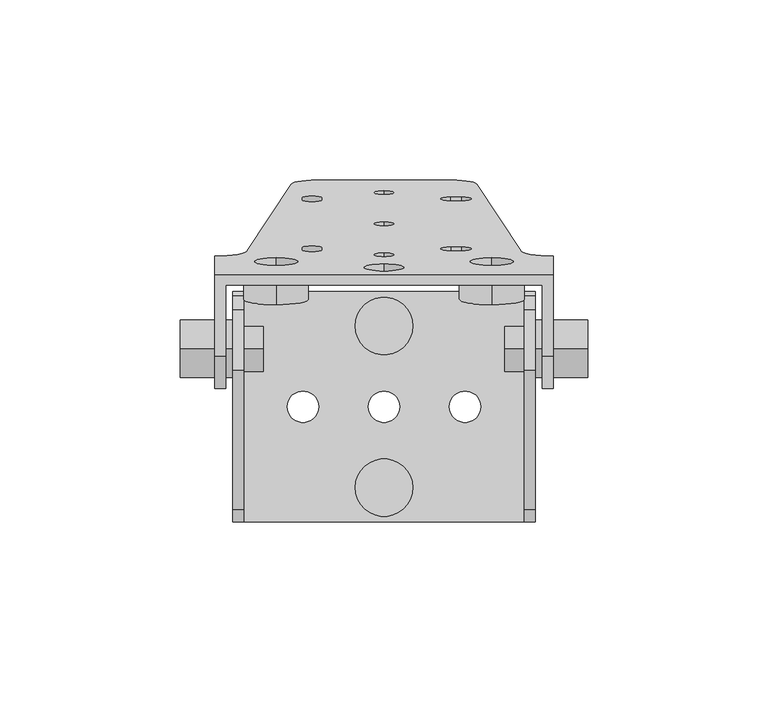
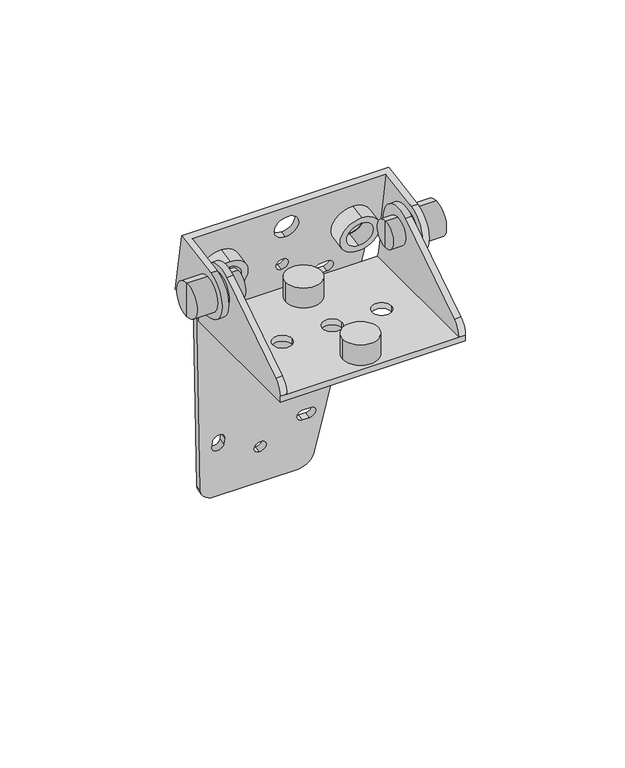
"""IFC4 building model written with IfcOpenShell, lengths in millimetres: proxy geometry, d&b xS-Series 42S l 44S Mounting Bracket : 42S l 44S Mounting Bracket."""

from ifc_helpers import new_model, si_unit, point, frame, frame_2d, origin, origin_with_axes, place, context, project, spatial, polyline, circle_curve, trimmed, segment, composite_curve, outline, extrude, source, transform, mapped, element, save
from ifc_brep_helpers import plane_surface, cylinder_surface, revolved_surface, advanced_brep


def communication_devices_fe93b70c(model_context):
    return source(origin(), model_context, "Body", "SolidModel", [
        advanced_brep(
        [(-25.7132706, 58.9735909, -103.2943461), (-18.7591389, 60.0502039, -109.4001219), (18.7591389, 60.0502039, -109.4001219), (25.7132706, 58.9735909, -103.2943461), (37.9541317, 40.4971936, 1.4905099), (47.0, 38.9263951, 10.3989511), (47.0, 38.871905, 10.7079795), (44.0, 38.871905, 10.7079795), (44.0, 33.8293291, 39.3058488), (-44.0, 33.8293291, 39.3058488), (-44.0, 38.871905, 10.7079795), (-47.0, 38.871905, 10.7079795), (-37.9949251, 40.4356199, 1.8397119), (-29.9380242, 38.4341216, 13.1907728), (-29.9380242, 36.3503434, 25.0084658), (29.9380242, 38.4341216, 13.1907728), (29.9380242, 36.3503434, 25.0084658), (0.0, 57.0547728, -92.4121881), (0.0, 56.0997078, -86.9957455), (0.0, 39.7767791, 5.5761833), (0.0, 38.8217142, 10.9926259), (0.0, 36.694524, 23.0565209), (0.0, 34.784394, 33.8894062), (-22.75, 40.6884321, 0.4059426), (-17.25, 40.6884321, 0.4059426), (-17.25, 41.2093766, -2.5484807), (-22.75, 41.2093766, -2.5484807), (21.5, 40.4713719, 1.6369523), (21.5, 41.4264368, -3.7794904), (18.5, 41.4264368, -3.7794904), (18.5, 40.4713719, 1.6369523), (-17.25, 55.1012308, -81.3331009), (-22.75, 55.1012308, -81.3331009), (-22.75, 54.5802863, -78.3786776), (-17.25, 54.5802863, -78.3786776), (18.5, 55.318291, -82.5641106), (18.5, 54.3632261, -77.147668), (21.5, 54.3632261, -77.147668), (21.5, 55.318291, -82.5641106), (0.0, 48.3723639, -43.1718005), (0.0, 47.417299, -37.7553578), (-25.7132706, 61.9280142, -102.7734016), (-37.9949251, 43.3900431, 2.3606565), (-47.0, 41.8263283, 11.228924), (-47.0, 36.7837523, 39.8267934), (47.0, 36.7837523, 39.8267934), (47.0, 41.8808183, 10.9198956), (37.9541317, 43.4516169, 2.0114544), (25.7132706, 61.9280142, -102.7734016), (18.7591389, 63.0046271, -108.8791773), (-18.7591389, 63.0046271, -108.8791773), (-29.9380242, 41.3885448, 13.7117173), (-29.9380242, 39.3047667, 25.5294104), (29.9380242, 41.3885448, 13.7117173), (29.9380242, 39.3047667, 25.5294104), (0.0, 60.0091961, -91.8912436), (0.0, 59.0541311, -86.474801), (0.0, 42.7312024, 6.0971278), (0.0, 41.7761374, 11.5135705), (0.0, 39.6489473, 23.5774654), (0.0, 37.7388173, 34.4103507), (-22.75, 43.6428553, 0.9268871), (-22.75, 44.1637999, -2.0275361), (-17.25, 44.1637999, -2.0275361), (-17.25, 43.6428553, 0.9268871), (21.5, 43.4257951, 2.1578968), (18.5, 43.4257951, 2.1578968), (18.5, 44.3808601, -3.2585458), (21.5, 44.3808601, -3.2585458), (-17.25, 58.0556541, -80.8121564), (-17.25, 57.5347096, -77.8577331), (-22.75, 57.5347096, -77.8577331), (-22.75, 58.0556541, -80.8121564), (18.5, 58.2727143, -82.0431661), (21.5, 58.2727143, -82.0431661), (21.5, 57.3176493, -76.6267234), (18.5, 57.3176493, -76.6267234), (0.0, 51.3267872, -42.6508559), (0.0, 50.3717222, -37.2344133), (-47.0, 36.3114049, 10.2564942), (-47.0, 14.133174, 14.1671147), (-47.0, 14.133174, 35.8328853), (-44.0, 14.133174, 35.8328853), (44.0, 14.133174, 35.8328853), (47.0, 14.133174, 35.8328853), (47.0, 14.133174, 14.1671147), (47.0, 36.3114049, 10.2564942), (44.0, 36.3114049, 10.2564942), (44.0, 14.133174, 14.1671147), (-44.0, 14.133174, 14.1671147), (-44.0, 36.3114049, 10.2564942)],
        [
            (0, 1, circle_curve(frame((-18.7591389, 58.8346666, -102.5064676), z_axis=(0.0, -0.984807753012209, -0.1736481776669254), x_axis=(0.0, -0.1736481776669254, 0.984807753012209)), 7.0)),
            (1, 2),
            (2, 3, circle_curve(frame((18.7591389, 58.8346666, -102.5064676), z_axis=(0.0, -0.984807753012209, -0.1736481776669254), x_axis=(0.0, -0.1736481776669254, 0.984807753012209)), 7.0)),
            (3, 4),
            (4, 5, circle_curve(frame((47.0, 40.4971936, 1.4905099), z_axis=(0.0, 0.984807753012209, 0.1736481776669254), x_axis=(0.0, -0.1736481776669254, 0.984807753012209)), 9.0458683)),
            (5, 6),
            (6, 7),
            (7, 8),
            (8, 9),
            (9, 10),
            (10, 11),
            (11, 12, circle_curve(frame((-47.0, 40.4356199, 1.8397119), z_axis=(0.0, 0.984807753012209, 0.1736481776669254), x_axis=(0.0, -0.1736481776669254, 0.984807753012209)), 9.0050749)),
            (12, 0),
            (13, 14, circle_curve(frame((-29.9380242, 37.3922325, 19.0996193), z_axis=(0.0, 0.984807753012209, 0.17364817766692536), x_axis=(0.0, -0.17364817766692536, 0.984807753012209)), 6.0)),
            (14, 13, circle_curve(frame((-29.9380242, 37.3922325, 19.0996193), z_axis=(0.0, 0.984807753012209, 0.17364817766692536), x_axis=(0.0, -0.17364817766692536, 0.984807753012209)), 6.0)),
            (15, 16, circle_curve(frame((29.9380242, 37.3922325, 19.0996193), z_axis=(0.0, 0.984807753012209, 0.17364817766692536), x_axis=(0.0, -0.17364817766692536, 0.984807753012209)), 6.0)),
            (16, 15, circle_curve(frame((29.9380242, 37.3922325, 19.0996193), z_axis=(0.0, 0.984807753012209, 0.17364817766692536), x_axis=(0.0, -0.17364817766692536, 0.984807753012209)), 6.0)),
            (17, 18, circle_curve(frame((0.0, 56.5772403, -89.7039668), z_axis=(0.0, 0.984807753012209, 0.17364817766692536), x_axis=(0.0, -0.17364817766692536, 0.984807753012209)), 2.75)),
            (18, 17, circle_curve(frame((0.0, 56.5772403, -89.7039668), z_axis=(0.0, 0.984807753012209, 0.17364817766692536), x_axis=(0.0, -0.17364817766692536, 0.984807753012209)), 2.75)),
            (19, 20, circle_curve(frame((0.0, 39.2992467, 8.2844046), z_axis=(0.0, 0.984807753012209, 0.17364817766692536), x_axis=(0.0, -0.17364817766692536, 0.984807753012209)), 2.75)),
            (20, 19, circle_curve(frame((0.0, 39.2992467, 8.2844046), z_axis=(0.0, 0.984807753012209, 0.17364817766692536), x_axis=(0.0, -0.17364817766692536, 0.984807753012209)), 2.75)),
            (21, 22, circle_curve(frame((0.0, 35.739459, 28.4729636), z_axis=(0.0, 0.984807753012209, 0.17364817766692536), x_axis=(0.0, -0.17364817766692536, 0.984807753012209)), 5.5)),
            (22, 21, circle_curve(frame((0.0, 35.739459, 28.4729636), z_axis=(0.0, 0.984807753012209, 0.17364817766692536), x_axis=(0.0, -0.17364817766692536, 0.984807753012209)), 5.5)),
            (23, 24, circle_curve(frame((-20.0, 40.6884321, 0.4059426), z_axis=(0.0, 0.984807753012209, 0.17364817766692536), x_axis=(0.0, -0.17364817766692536, 0.984807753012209)), 2.75)),
            (24, 25),
            (25, 26, circle_curve(frame((-20.0, 41.2093766, -2.5484807), z_axis=(0.0, 0.984807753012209, 0.17364817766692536), x_axis=(0.0, -0.17364817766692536, 0.984807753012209)), 2.75)),
            (26, 23),
            (27, 28, circle_curve(frame((21.5, 40.9489043, -1.071269), z_axis=(0.0, 0.984807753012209, 0.17364817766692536), x_axis=(0.0, -0.17364817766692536, 0.984807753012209)), 2.75)),
            (28, 29),
            (29, 30, circle_curve(frame((18.5, 40.9489043, -1.071269), z_axis=(0.0, 0.984807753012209, 0.17364817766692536), x_axis=(0.0, -0.17364817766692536, 0.984807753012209)), 2.75)),
            (30, 27),
            (31, 32, circle_curve(frame((-20.0, 55.1012308, -81.3331009), z_axis=(0.0, 0.984807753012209, 0.17364817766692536), x_axis=(0.0, -0.17364817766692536, 0.984807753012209)), 2.75)),
            (32, 33),
            (33, 34, circle_curve(frame((-20.0, 54.5802863, -78.3786776), z_axis=(0.0, 0.984807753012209, 0.17364817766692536), x_axis=(0.0, -0.17364817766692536, 0.984807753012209)), 2.75)),
            (34, 31),
            (35, 36, circle_curve(frame((18.5, 54.8407586, -79.8558893), z_axis=(0.0, 0.984807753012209, 0.17364817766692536), x_axis=(0.0, -0.17364817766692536, 0.984807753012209)), 2.75)),
            (36, 37),
            (37, 38, circle_curve(frame((21.5, 54.8407586, -79.8558893), z_axis=(0.0, 0.984807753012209, 0.17364817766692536), x_axis=(0.0, -0.17364817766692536, 0.984807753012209)), 2.75)),
            (38, 35),
            (39, 40, circle_curve(frame((0.0, 47.8948315, -40.4635792), z_axis=(0.0, 0.984807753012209, 0.17364817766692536), x_axis=(0.0, -0.17364817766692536, 0.984807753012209)), 2.75)),
            (40, 39, circle_curve(frame((0.0, 47.8948315, -40.4635792), z_axis=(0.0, 0.984807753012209, 0.17364817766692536), x_axis=(0.0, -0.17364817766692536, 0.984807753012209)), 2.75)),
            (41, 42),
            (42, 43, circle_curve(frame((-47.0, 43.3900431, 2.3606565), z_axis=(0.0, -0.984807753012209, -0.1736481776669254), x_axis=(0.0, -0.1736481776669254, 0.984807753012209)), 9.0050749)),
            (43, 44),
            (44, 45),
            (45, 46),
            (46, 47, circle_curve(frame((47.0, 43.4516169, 2.0114544), z_axis=(0.0, -0.984807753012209, -0.1736481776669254), x_axis=(0.0, -0.1736481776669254, 0.984807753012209)), 9.0458683)),
            (47, 48),
            (48, 49, circle_curve(frame((18.7591389, 61.7890899, -101.9855231), z_axis=(0.0, 0.984807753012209, 0.1736481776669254), x_axis=(0.0, -0.1736481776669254, 0.984807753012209)), 7.0)),
            (49, 50),
            (50, 41, circle_curve(frame((-18.7591389, 61.7890899, -101.9855231), z_axis=(0.0, 0.984807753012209, 0.1736481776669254), x_axis=(0.0, -0.1736481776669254, 0.984807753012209)), 7.0)),
            (51, 52, circle_curve(frame((-29.9380242, 40.3466558, 19.6205639), z_axis=(0.0, -0.984807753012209, -0.17364817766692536), x_axis=(0.0, -0.17364817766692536, 0.984807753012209)), 6.0)),
            (52, 51, circle_curve(frame((-29.9380242, 40.3466558, 19.6205639), z_axis=(0.0, -0.984807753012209, -0.17364817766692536), x_axis=(0.0, -0.17364817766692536, 0.984807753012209)), 6.0)),
            (53, 54, circle_curve(frame((29.9380242, 40.3466558, 19.6205639), z_axis=(0.0, -0.984807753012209, -0.17364817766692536), x_axis=(0.0, -0.17364817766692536, 0.984807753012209)), 6.0)),
            (54, 53, circle_curve(frame((29.9380242, 40.3466558, 19.6205639), z_axis=(0.0, -0.984807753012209, -0.17364817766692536), x_axis=(0.0, -0.17364817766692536, 0.984807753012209)), 6.0)),
            (55, 56, circle_curve(frame((0.0, 59.5316636, -89.1830223), z_axis=(0.0, -0.984807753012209, -0.17364817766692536), x_axis=(0.0, -0.17364817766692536, 0.984807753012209)), 2.75)),
            (56, 55, circle_curve(frame((0.0, 59.5316636, -89.1830223), z_axis=(0.0, -0.984807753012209, -0.17364817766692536), x_axis=(0.0, -0.17364817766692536, 0.984807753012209)), 2.75)),
            (57, 58, circle_curve(frame((0.0, 42.2536699, 8.8053491), z_axis=(0.0, -0.984807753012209, -0.17364817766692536), x_axis=(0.0, -0.17364817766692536, 0.984807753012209)), 2.75)),
            (58, 57, circle_curve(frame((0.0, 42.2536699, 8.8053491), z_axis=(0.0, -0.984807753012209, -0.17364817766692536), x_axis=(0.0, -0.17364817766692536, 0.984807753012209)), 2.75)),
            (59, 60, circle_curve(frame((0.0, 38.6938823, 28.9939081), z_axis=(0.0, -0.984807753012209, -0.17364817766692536), x_axis=(0.0, -0.17364817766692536, 0.984807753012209)), 5.5)),
            (60, 59, circle_curve(frame((0.0, 38.6938823, 28.9939081), z_axis=(0.0, -0.984807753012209, -0.17364817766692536), x_axis=(0.0, -0.17364817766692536, 0.984807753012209)), 5.5)),
            (61, 62),
            (62, 63, circle_curve(frame((-20.0, 44.1637999, -2.0275361), z_axis=(0.0, -0.984807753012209, -0.17364817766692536), x_axis=(0.0, -0.17364817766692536, 0.984807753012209)), 2.75)),
            (63, 64),
            (64, 61, circle_curve(frame((-20.0, 43.6428553, 0.9268871), z_axis=(0.0, -0.984807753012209, -0.17364817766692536), x_axis=(0.0, -0.17364817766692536, 0.984807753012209)), 2.75)),
            (65, 66),
            (66, 67, circle_curve(frame((18.5, 43.9033276, -0.5503245), z_axis=(0.0, -0.984807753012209, -0.17364817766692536), x_axis=(0.0, -0.17364817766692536, 0.984807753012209)), 2.75)),
            (67, 68),
            (68, 65, circle_curve(frame((21.5, 43.9033276, -0.5503245), z_axis=(0.0, -0.984807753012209, -0.17364817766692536), x_axis=(0.0, -0.17364817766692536, 0.984807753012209)), 2.75)),
            (69, 70),
            (70, 71, circle_curve(frame((-20.0, 57.5347096, -77.8577331), z_axis=(0.0, -0.984807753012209, -0.17364817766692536), x_axis=(0.0, -0.17364817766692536, 0.984807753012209)), 2.75)),
            (71, 72),
            (72, 69, circle_curve(frame((-20.0, 58.0556541, -80.8121564), z_axis=(0.0, -0.984807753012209, -0.17364817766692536), x_axis=(0.0, -0.17364817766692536, 0.984807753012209)), 2.75)),
            (73, 74),
            (74, 75, circle_curve(frame((21.5, 57.7951818, -79.3349447), z_axis=(0.0, -0.984807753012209, -0.17364817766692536), x_axis=(0.0, -0.17364817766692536, 0.984807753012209)), 2.75)),
            (75, 76),
            (76, 73, circle_curve(frame((18.5, 57.7951818, -79.3349447), z_axis=(0.0, -0.984807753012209, -0.17364817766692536), x_axis=(0.0, -0.17364817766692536, 0.984807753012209)), 2.75)),
            (77, 78, circle_curve(frame((0.0, 50.8492547, -39.9426346), z_axis=(0.0, -0.984807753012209, -0.17364817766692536), x_axis=(0.0, -0.17364817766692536, 0.984807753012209)), 2.75)),
            (78, 77, circle_curve(frame((0.0, 50.8492547, -39.9426346), z_axis=(0.0, -0.984807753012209, -0.17364817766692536), x_axis=(0.0, -0.17364817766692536, 0.984807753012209)), 2.75)),
            (12, 42),
            (41, 0),
            (11, 43),
            (11, 79),
            (79, 80),
            (80, 81, circle_curve(frame((-47.0, 16.043304, 25.0), z_axis=(-1.0, 0.0, 0.0), x_axis=(0.0, -0.17364817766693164, 0.9848077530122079)), 11.0)),
            (81, 44),
            (81, 82),
            (82, 9),
            (8, 83),
            (83, 84),
            (84, 45),
            (84, 85, circle_curve(frame((47.0, 16.043304, 25.0), z_axis=(1.0, 0.0, 0.0), x_axis=(0.0, -0.1736481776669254, 0.984807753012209)), 11.0)),
            (85, 86),
            (86, 6),
            (5, 46),
            (4, 47),
            (3, 48),
            (2, 49),
            (1, 50),
            (14, 52),
            (51, 13),
            (16, 54),
            (53, 15),
            (18, 56),
            (55, 17),
            (20, 58),
            (57, 19),
            (22, 60),
            (59, 21),
            (26, 62),
            (61, 23),
            (25, 63),
            (24, 64),
            (30, 66),
            (65, 27),
            (29, 67),
            (28, 68),
            (34, 70),
            (69, 31),
            (33, 71),
            (32, 72),
            (38, 74),
            (73, 35),
            (37, 75),
            (36, 76),
            (7, 87),
            (87, 88),
            (88, 83, circle_curve(frame((44.0, 16.043304, 25.0), z_axis=(-1.0, 0.0, 0.0), x_axis=(0.0, -0.1736481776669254, 0.984807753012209)), 11.0)),
            (85, 88),
            (87, 86),
            (82, 89, circle_curve(frame((-44.0, 16.043304, 25.0), z_axis=(1.0, 0.0, 0.0), x_axis=(0.0, -0.17364817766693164, 0.9848077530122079)), 11.0)),
            (89, 90),
            (90, 10),
            (79, 90),
            (89, 80),
            (40, 78),
            (77, 39),
        ],
        [
            plane_surface(frame((-37.9541317, 40.4971936, 1.4905099), z_axis=(0.0, -0.9848077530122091, -0.17364817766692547), x_axis=(-0.11429040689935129, -0.17251032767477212, 0.9783546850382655))),
            plane_surface(frame((-37.9541317, 43.4516169, 2.0114544), z_axis=(0.0, 0.9848077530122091, 0.17364817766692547), x_axis=(0.11429040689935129, 0.17251032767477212, -0.9783546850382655))),
            plane_surface(frame((-25.7132706, 58.9735909, -103.2943461), z_axis=(-0.99344738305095, 0.019846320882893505, -0.1125540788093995), x_axis=(0.0, 0.9848077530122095, 0.17364817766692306))),
            revolved_surface(polyline([(-47.0, 41.826328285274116, 11.228924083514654), (-47.0, 38.87190499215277, 10.707979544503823)]), (-47.0, 43.3900431, 2.3606565), (0.0, 0.984807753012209, 0.1736481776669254)),
            plane_surface(frame((-47.0, 38.871905, 10.7079795), z_axis=(-1.0000000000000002, 0.0, 0.0), x_axis=(0.0, 0.9848077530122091, 0.17364817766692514))),
            plane_surface(frame((-47.0, 33.8293291, 39.3058488), z_axis=(0.0, -0.17364817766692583, 0.9848077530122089), x_axis=(0.0, 0.9848077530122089, 0.17364817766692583))),
            plane_surface(frame((47.0, 33.8293291, 39.3058488), z_axis=(1.0000000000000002, 0.0, 0.0), x_axis=(0.0, 0.9848077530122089, 0.17364817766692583))),
            revolved_surface(polyline([(47.0, 41.88081835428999, 10.919895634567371), (47.0, 38.92639506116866, 10.398951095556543)]), (47.0, 43.4516169, 2.0114544), (0.0, 0.984807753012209, 0.1736481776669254)),
            plane_surface(frame((37.9541317, 40.4971936, 1.4905099), z_axis=(0.9934473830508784, 0.019846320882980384, -0.11255407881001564), x_axis=(0.0, 0.9848077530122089, 0.17364817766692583))),
            cylinder_surface(frame((18.7591389, 61.7890899, -101.9855231), z_axis=(0.0, -0.984807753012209, -0.1736481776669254), x_axis=(0.0, -0.1736481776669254, 0.984807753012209)), 7.0),
            plane_surface(frame((18.7591389, 60.0502039, -109.4001219), z_axis=(0.0, 0.17364817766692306, -0.9848077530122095), x_axis=(0.0, 0.9848077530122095, 0.17364817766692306))),
            cylinder_surface(frame((-18.7591389, 61.7890899, -101.9855231), z_axis=(0.0, -0.984807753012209, -0.1736481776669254), x_axis=(0.0, -0.1736481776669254, 0.984807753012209)), 7.0),
            revolved_surface(polyline([(-29.9380242, 39.30476673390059, 25.529410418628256), (-29.9380242, 36.35034338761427, 25.008465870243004)]), (-29.9380242, 17.6960774, 15.6266558), (0.0, 0.984807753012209, 0.17364817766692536)),
            revolved_surface(polyline([(29.9380242, 39.30476673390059, 25.529410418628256), (29.9380242, 36.35034338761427, 25.008465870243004)]), (29.9380242, 17.6960774, 15.6266558), (0.0, 0.984807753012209, 0.17364817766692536)),
            revolved_surface(polyline([(0.0, 59.05413112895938, -86.47480099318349), (0.0, 56.0997078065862, -86.9957455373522)]), (0.0, 36.8810853, -93.1769304), (0.0, 0.984807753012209, 0.17364817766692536)),
            revolved_surface(polyline([(0.0, 41.776137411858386, 11.513570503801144), (0.0, 38.82171411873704, 10.992625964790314)]), (0.0, 19.6030916, 4.8114411), (0.0, 0.984807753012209, 0.17364817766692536)),
            revolved_surface(polyline([(0.0, 37.738817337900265, 34.41035072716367), (0.0, 34.784394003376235, 33.889406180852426)]), (0.0, 16.043304, 25.0), (0.0, 0.984807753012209, 0.17364817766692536)),
            plane_surface(frame((-22.75, 40.6884321, 0.4059426), z_axis=(1.0000000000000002, 0.0, 0.0), x_axis=(0.0, 0.9848077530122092, 0.17364817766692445))),
            revolved_surface(polyline([(-20.0, 43.686267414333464, 0.6806852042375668), (-20.0, 40.73184410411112, 0.15974066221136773)]), (-20.0, 21.5132216, -6.0214442), (0.0, 0.984807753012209, 0.17364817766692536)),
            plane_surface(frame((-17.25, 41.2093766, -2.5484807), z_axis=(-1.0000000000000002, 0.0, 0.0), x_axis=(0.0, 0.9848077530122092, 0.17364817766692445))),
            revolved_surface(polyline([(-20.0, 43.165322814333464, 3.635108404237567), (-20.0, 40.210899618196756, 3.114163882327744)]), (-20.0, 20.992277, -3.067021), (0.0, 0.984807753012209, 0.17364817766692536)),
            plane_surface(frame((21.5, 40.4713719, 1.6369523), z_axis=(0.0, 0.17364817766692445, -0.9848077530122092), x_axis=(0.0, 0.9848077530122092, 0.17364817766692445))),
            revolved_surface(polyline([(18.5, 43.42579512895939, 2.1578968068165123), (18.5, 40.47137181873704, 1.6369522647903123)]), (18.5, 21.2527493, -4.5442326), (0.0, 0.984807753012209, 0.17364817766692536)),
            plane_surface(frame((18.5, 41.4264368, -3.7794904), z_axis=(0.0, -0.17364817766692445, 0.9848077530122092), x_axis=(0.0, 0.9848077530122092, 0.17364817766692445))),
            revolved_surface(polyline([(21.5, 43.42579512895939, 2.1578968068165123), (21.5, 40.47137181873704, 1.6369522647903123)]), (21.5, 21.2527493, -4.5442326), (0.0, 0.984807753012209, 0.17364817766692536)),
            plane_surface(frame((-17.25, 55.1012308, -81.3331009), z_axis=(-1.0000000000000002, 0.0, 0.0), x_axis=(0.0, 0.9848077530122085, 0.1736481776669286))),
            revolved_surface(polyline([(-20.0, 57.0571771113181, -75.14951177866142), (-20.0, 54.10275381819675, -75.67045631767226)]), (-20.0, 34.8841312, -81.8516412), (0.0, 0.984807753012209, 0.17364817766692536)),
            plane_surface(frame((-22.75, 54.5802863, -78.3786776), z_axis=(1.0000000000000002, 0.0, 0.0), x_axis=(0.0, 0.9848077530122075, 0.17364817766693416))),
            revolved_surface(polyline([(-20.0, 57.57812161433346, -78.10393509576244), (-20.0, 54.62369832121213, -78.62487963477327)]), (-20.0, 35.4050758, -84.8060645), (0.0, 0.984807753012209, 0.17364817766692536)),
            plane_surface(frame((18.5, 55.318291, -82.5641106), z_axis=(0.0, -0.17364817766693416, 0.9848077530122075), x_axis=(0.0, 0.9848077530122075, 0.17364817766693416))),
            revolved_surface(polyline([(21.5, 57.317649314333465, -76.62672339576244), (21.5, 54.363226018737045, -77.14766793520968)]), (21.5, 35.1446035, -83.3288528), (0.0, 0.984807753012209, 0.17364817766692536)),
            plane_surface(frame((21.5, 54.3632261, -77.147668), z_axis=(0.0, 0.17364817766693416, -0.9848077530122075), x_axis=(0.0, 0.9848077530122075, 0.17364817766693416))),
            revolved_surface(polyline([(18.5, 57.317649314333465, -76.62672339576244), (18.5, 54.363226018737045, -77.14766793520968)]), (18.5, 35.1446035, -83.3288528), (0.0, 0.984807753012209, 0.17364817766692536)),
            plane_surface(frame((44.0, 33.8293291, 39.3058488), z_axis=(-1.0000000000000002, 0.0, 0.0), x_axis=(0.0, -0.17364817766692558, 0.984807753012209))),
            plane_surface(frame((47.0, 36.3114049, 10.2564942), z_axis=(0.0, -0.17364817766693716, -0.984807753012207), x_axis=(-1.0, 0.0, 0.0))),
            cylinder_surface(frame((44.0, 16.043304, 25.0), z_axis=(1.0, 0.0, 0.0), x_axis=(0.0, -0.1736481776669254, 0.984807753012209)), 11.0),
            plane_surface(frame((47.0, 38.871905, 10.7079795), z_axis=(0.0, 0.17364817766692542, -0.984807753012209), x_axis=(-1.0, 0.0, 0.0))),
            plane_surface(frame((-44.0, 14.133174, 35.8328853), z_axis=(1.0000000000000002, 0.0, 0.0), x_axis=(0.0, 0.9848077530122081, 0.1736481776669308))),
            plane_surface(frame((-47.0, 14.133174, 14.1671147), z_axis=(0.0, -0.17364817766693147, -0.984807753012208), x_axis=(1.0, 0.0, 0.0))),
            cylinder_surface(frame((-44.0, 16.043304, 25.0), z_axis=(-1.0, 0.0, 0.0), x_axis=(0.0, -0.17364817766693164, 0.9848077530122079)), 11.0),
            plane_surface(frame((-47.0, 36.3114049, 10.2564942), z_axis=(0.0, 0.17364817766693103, -0.984807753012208), x_axis=(1.0, 0.0, 0.0))),
            revolved_surface(polyline([(0.0, 50.371722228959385, -37.234413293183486), (0.0, 47.417298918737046, -37.755357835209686)]), (0.0, 28.1986764, -43.9365427), (0.0, 0.984807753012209, 0.17364817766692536)),
        ],
        [
            (0, [[1, 2, 3, 4, 5, 6, 7, 8, 9, 10, 11, 12, 13], [14, 15], [16, 17], [18, 19], [20, 21], [22, 23], [24, 25, 26, 27], [28, 29, 30, 31], [32, 33, 34, 35], [36, 37, 38, 39], [40, 41]]),
            (1, [[42, 43, 44, 45, 46, 47, 48, 49, 50, 51], [52, 53], [54, 55], [56, 57], [58, 59], [60, 61], [62, 63, 64, 65], [66, 67, 68, 69], [70, 71, 72, 73], [74, 75, 76, 77], [78, 79]]),
            (2, [[80, -42, 81, -13]]),
            (3, [[82, -43, -80, -12]]),
            (4, [[-82, 83, 84, 85, 86, -44]]),
            (5, [[87, 88, -9, 89, 90, 91, -45, -86]]),
            (6, [[-91, 92, 93, 94, -6, 95, -46]]),
            (7, [[96, -47, -95, -5]]),
            (8, [[97, -48, -96, -4]]),
            (9, [[98, -49, -97, -3]]),
            (10, [[99, -50, -98, -2]]),
            (11, [[-81, -51, -99, -1]]),
            (12, [[100, -52, 101, -15]]),
            (12, [[-101, -53, -100, -14]]),
            (13, [[102, -54, 103, -17]]),
            (13, [[-103, -55, -102, -16]]),
            (14, [[104, -56, 105, -19]]),
            (14, [[-105, -57, -104, -18]]),
            (15, [[106, -58, 107, -21]]),
            (15, [[-107, -59, -106, -20]]),
            (16, [[108, -60, 109, -23]]),
            (16, [[-109, -61, -108, -22]]),
            (17, [[110, -62, 111, -27]]),
            (18, [[112, -63, -110, -26]]),
            (19, [[113, -64, -112, -25]]),
            (20, [[-111, -65, -113, -24]]),
            (21, [[114, -66, 115, -31]]),
            (22, [[116, -67, -114, -30]]),
            (23, [[117, -68, -116, -29]]),
            (24, [[-115, -69, -117, -28]]),
            (25, [[118, -70, 119, -35]]),
            (26, [[120, -71, -118, -34]]),
            (27, [[121, -72, -120, -33]]),
            (28, [[-119, -73, -121, -32]]),
            (29, [[122, -74, 123, -39]]),
            (30, [[124, -75, -122, -38]]),
            (31, [[125, -76, -124, -37]]),
            (32, [[-123, -77, -125, -36]]),
            (33, [[-8, 126, 127, 128, -89]]),
            (34, [[129, -127, 130, -93]]),
            (35, [[-90, -128, -129, -92]]),
            (36, [[-130, -126, -7, -94]]),
            (37, [[-10, -88, 131, 132, 133]]),
            (38, [[134, -132, 135, -84]]),
            (39, [[-135, -131, -87, -85]]),
            (40, [[-11, -133, -134, -83]]),
            (41, [[136, -78, 137, -41]]),
            (41, [[-137, -79, -136, -40]]),
        ],
    ),
        extrude(outline(composite_curve([segment(trimmed(circle_curve(frame_2d((0.0, -6.0)), 9.0), [point((0.0, -15.0))], [point((0.0, 3.0))], False, "CARTESIAN"), True, "CONTINUOUS"), segment(trimmed(circle_curve(frame_2d((0.0, -6.0)), 9.0), [point((0.0, 3.0))], [point((0.0, -15.0))], False, "CARTESIAN"), True, "CONTINUOUS")], self_intersect=False), holes=[composite_curve([segment(trimmed(circle_curve(frame_2d((0.0, -6.0)), 6.0), [point((0.0, -12.0))], [point((0.0, 0.0))], True, "CARTESIAN"), True, "CONTINUOUS"), segment(trimmed(circle_curve(frame_2d((0.0, -6.0)), 6.0), [point((0.0, 0.0))], [point((0.0, -12.0))], True, "CARTESIAN"), True, "CONTINUOUS")], self_intersect=False)]), frame((-29.9380242, 28.8658045, 23.6887397), z_axis=(0.0, 0.984807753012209, 0.1736481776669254), x_axis=(-1.0, 0.0, 0.0)), (0.0, 0.0, 1.0), 7.6),
        extrude(outline(composite_curve([segment(trimmed(circle_curve(frame_2d((-59.8760484, -6.0)), 9.0), [point((-59.8760484, -15.0))], [point((-59.8760484, 3.0))], False, "CARTESIAN"), True, "CONTINUOUS"), segment(trimmed(circle_curve(frame_2d((-59.8760484, -6.0)), 9.0), [point((-59.8760484, 3.0))], [point((-59.8760484, -15.0))], False, "CARTESIAN"), True, "CONTINUOUS")], self_intersect=False), holes=[composite_curve([segment(trimmed(circle_curve(frame_2d((-59.8760484, -6.0)), 6.0), [point((-59.8760484, -12.0))], [point((-59.8760484, 0.0))], True, "CARTESIAN"), True, "CONTINUOUS"), segment(trimmed(circle_curve(frame_2d((-59.8760484, -6.0)), 6.0), [point((-59.8760484, 0.0))], [point((-59.8760484, -12.0))], True, "CARTESIAN"), True, "CONTINUOUS")], self_intersect=False)]), frame((-29.9380242, 28.8658045, 23.6887397), z_axis=(0.0, 0.984807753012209, 0.1736481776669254), x_axis=(-1.0, 0.0, 0.0)), (0.0, 0.0, 1.0), 7.6),
        advanced_brep(
        [(-56.6, 16.043304, 25.0), (-56.6, 16.043304, 16.9952949), (-56.6, 16.043304, 33.0047051), (-47.0, 16.043304, 16.9952949), (-47.0, 16.043304, 25.0), (-47.0, 16.043304, 33.0047051)],
        [
            (0, 1),
            (1, 2, circle_curve(frame((-56.6, 16.043304, 25.0), z_axis=(-1.0, 0.0, 0.0), x_axis=(0.0, 0.0, 1.0)), 8.0047051)),
            (2, 0),
            (2, 1, circle_curve(frame((-56.6, 16.043304, 25.0), z_axis=(-1.0, 0.0, 0.0), x_axis=(0.0, 0.0, 1.0)), 8.0047051)),
            (3, 4),
            (4, 5),
            (5, 3, circle_curve(frame((-47.0, 16.043304, 25.0), z_axis=(1.0, 0.0, 0.0), x_axis=(0.0, 0.0, 1.0)), 8.0047051)),
            (3, 5, circle_curve(frame((-47.0, 16.043304, 25.0), z_axis=(1.0, 0.0, 0.0), x_axis=(0.0, 0.0, 1.0)), 8.0047051)),
            (1, 3),
            (5, 2),
        ],
        [
            plane_surface(frame((-56.6, 16.043304, 25.0), z_axis=(-1.0, 0.0, 0.0), x_axis=(0.0, 0.0, 1.0))),
            plane_surface(frame((-47.0, 16.043304, 25.0), z_axis=(1.0, 0.0, 0.0), x_axis=(0.0, 0.0, 1.0))),
            cylinder_surface(frame((-71.6, 16.043304, 25.0), z_axis=(-1.0, 0.0, 0.0), x_axis=(0.0, 0.0, 1.0)), 8.0047051),
        ],
        [
            (0, [[1, 2, 3]]),
            (0, [[-3, 4, -1]]),
            (1, [[5, 6, 7]]),
            (1, [[-6, -5, 8]]),
            (2, [[9, -7, 10, -2]]),
            (2, [[-10, -8, -9, -4]]),
        ],
    ),
        advanced_brep(
        [(-44.0, 16.043304, 16.9952949), (-42.0, 16.043304, 16.9952949), (-42.0, 16.043304, 33.0047051), (-44.0, 16.043304, 33.0047051), (-44.0, 16.043304, 25.0), (-42.0, 16.043304, 25.0)],
        [
            (0, 1),
            (1, 2, circle_curve(frame((-42.0, 16.043304, 25.0), z_axis=(-1.0, 0.0, 0.0), x_axis=(0.0, 0.0, 1.0)), 8.0047051)),
            (2, 3),
            (3, 0, circle_curve(frame((-44.0, 16.043304, 25.0), z_axis=(1.0, 0.0, 0.0), x_axis=(0.0, 0.0, 1.0)), 8.0047051)),
            (2, 1, circle_curve(frame((-42.0, 16.043304, 25.0), z_axis=(-1.0, 0.0, 0.0), x_axis=(0.0, 0.0, 1.0)), 8.0047051)),
            (0, 3, circle_curve(frame((-44.0, 16.043304, 25.0), z_axis=(1.0, 0.0, 0.0), x_axis=(0.0, 0.0, 1.0)), 8.0047051)),
            (4, 0),
            (3, 4),
            (1, 5),
            (5, 2),
        ],
        [
            cylinder_surface(frame((-71.6, 16.043304, 25.0), z_axis=(-1.0, 0.0, 0.0), x_axis=(0.0, 0.0, 1.0)), 8.0047051),
            plane_surface(frame((-44.0, 16.043304, 25.0), z_axis=(-1.0, 0.0, 0.0), x_axis=(0.0, 0.0, 1.0))),
            plane_surface(frame((-42.0, 16.043304, 25.0), z_axis=(1.0, 0.0, 0.0), x_axis=(0.0, 0.0, 1.0))),
        ],
        [
            (0, [[1, 2, 3, 4]]),
            (0, [[-3, 5, -1, 6]]),
            (1, [[7, -4, 8]]),
            (1, [[-8, -6, -7]]),
            (2, [[9, 10, -2]]),
            (2, [[-10, -9, -5]]),
        ],
    ),
        advanced_brep(
        [(-39.0, 16.043304, 18.6786387), (-33.5, 16.043304, 18.6786387), (-33.5, 16.043304, 31.3213613), (-39.0, 16.043304, 31.3213613), (-39.0, 16.043304, 25.0), (-33.5, 16.043304, 25.0)],
        [
            (0, 1),
            (1, 2, circle_curve(frame((-33.5, 16.043304, 25.0), z_axis=(-1.0, 0.0, 0.0), x_axis=(0.0, 0.0, 1.0)), 6.3213613)),
            (2, 3),
            (3, 0, circle_curve(frame((-39.0, 16.043304, 25.0), z_axis=(1.0, 0.0, 0.0), x_axis=(0.0, 0.0, 1.0)), 6.3213613)),
            (2, 1, circle_curve(frame((-33.5, 16.043304, 25.0), z_axis=(-1.0, 0.0, 0.0), x_axis=(0.0, 0.0, 1.0)), 6.3213613)),
            (0, 3, circle_curve(frame((-39.0, 16.043304, 25.0), z_axis=(1.0, 0.0, 0.0), x_axis=(0.0, 0.0, 1.0)), 6.3213613)),
            (4, 0),
            (3, 4),
            (1, 5),
            (5, 2),
        ],
        [
            cylinder_surface(frame((-71.6, 16.043304, 25.0), z_axis=(-1.0, 0.0, 0.0), x_axis=(0.0, 0.0, 1.0)), 6.3213613),
            plane_surface(frame((-39.0, 16.043304, 25.0), z_axis=(-1.0, 0.0, 0.0), x_axis=(0.0, 0.0, 1.0))),
            plane_surface(frame((-33.5, 16.043304, 25.0), z_axis=(1.0, 0.0, 0.0), x_axis=(0.0, 0.0, 1.0))),
        ],
        [
            (0, [[1, 2, 3, 4]]),
            (0, [[-3, 5, -1, 6]]),
            (1, [[7, -4, 8]]),
            (1, [[-8, -6, -7]]),
            (2, [[9, 10, -2]]),
            (2, [[-10, -9, -5]]),
        ],
    ),
        advanced_brep(
        [(47.0, 16.043304, 16.9952949), (56.6, 16.043304, 16.9952949), (56.6, 16.043304, 33.0047051), (47.0, 16.043304, 33.0047051), (47.0, 16.043304, 25.0), (56.6, 16.043304, 25.0)],
        [
            (0, 1),
            (1, 2, circle_curve(frame((56.6, 16.043304, 25.0), z_axis=(-1.0, 0.0, 0.0), x_axis=(0.0, 0.0, 1.0)), 8.0047051)),
            (2, 3),
            (3, 0, circle_curve(frame((47.0, 16.043304, 25.0), z_axis=(1.0, 0.0, 0.0), x_axis=(0.0, 0.0, 1.0)), 8.0047051)),
            (2, 1, circle_curve(frame((56.6, 16.043304, 25.0), z_axis=(-1.0, 0.0, 0.0), x_axis=(0.0, 0.0, 1.0)), 8.0047051)),
            (0, 3, circle_curve(frame((47.0, 16.043304, 25.0), z_axis=(1.0, 0.0, 0.0), x_axis=(0.0, 0.0, 1.0)), 8.0047051)),
            (4, 0),
            (3, 4),
            (1, 5),
            (5, 2),
        ],
        [
            cylinder_surface(frame((-71.6, 16.043304, 25.0), z_axis=(-1.0, 0.0, 0.0), x_axis=(0.0, 0.0, 1.0)), 8.0047051),
            plane_surface(frame((47.0, 16.043304, 25.0), z_axis=(-1.0, 0.0, 0.0), x_axis=(0.0, 0.0, 1.0))),
            plane_surface(frame((56.6, 16.043304, 25.0), z_axis=(1.0, 0.0, 0.0), x_axis=(0.0, 0.0, 1.0))),
        ],
        [
            (0, [[1, 2, 3, 4]]),
            (0, [[-3, 5, -1, 6]]),
            (1, [[7, -4, 8]]),
            (1, [[-8, -6, -7]]),
            (2, [[9, 10, -2]]),
            (2, [[-10, -9, -5]]),
        ],
    ),
        advanced_brep(
        [(42.0, 16.043304, 25.0), (42.0, 16.043304, 16.9952949), (42.0, 16.043304, 33.0047051), (44.0, 16.043304, 16.9952949), (44.0, 16.043304, 25.0), (44.0, 16.043304, 33.0047051)],
        [
            (0, 1),
            (1, 2, circle_curve(frame((42.0, 16.043304, 25.0), z_axis=(-1.0, 0.0, 0.0), x_axis=(0.0, 0.0, 1.0)), 8.0047051)),
            (2, 0),
            (2, 1, circle_curve(frame((42.0, 16.043304, 25.0), z_axis=(-1.0, 0.0, 0.0), x_axis=(0.0, 0.0, 1.0)), 8.0047051)),
            (3, 4),
            (4, 5),
            (5, 3, circle_curve(frame((44.0, 16.043304, 25.0), z_axis=(1.0, 0.0, 0.0), x_axis=(0.0, 0.0, 1.0)), 8.0047051)),
            (3, 5, circle_curve(frame((44.0, 16.043304, 25.0), z_axis=(1.0, 0.0, 0.0), x_axis=(0.0, 0.0, 1.0)), 8.0047051)),
            (1, 3),
            (5, 2),
        ],
        [
            plane_surface(frame((42.0, 16.043304, 25.0), z_axis=(-1.0, 0.0, 0.0), x_axis=(0.0, 0.0, 1.0))),
            plane_surface(frame((44.0, 16.043304, 25.0), z_axis=(1.0, 0.0, 0.0), x_axis=(0.0, 0.0, 1.0))),
            cylinder_surface(frame((-71.6, 16.043304, 25.0), z_axis=(-1.0, 0.0, 0.0), x_axis=(0.0, 0.0, 1.0)), 8.0047051),
        ],
        [
            (0, [[1, 2, 3]]),
            (0, [[-3, 4, -1]]),
            (1, [[5, 6, 7]]),
            (1, [[-6, -5, 8]]),
            (2, [[9, -7, 10, -2]]),
            (2, [[-10, -8, -9, -4]]),
        ],
    ),
        advanced_brep(
        [(33.5, 16.043304, 25.0), (33.5, 16.043304, 18.6786387), (33.5, 16.043304, 31.3213613), (39.0, 16.043304, 18.6786387), (39.0, 16.043304, 25.0), (39.0, 16.043304, 31.3213613)],
        [
            (0, 1),
            (1, 2, circle_curve(frame((33.5, 16.043304, 25.0), z_axis=(-1.0, 0.0, 0.0), x_axis=(0.0, 0.0, 1.0)), 6.3213613)),
            (2, 0),
            (2, 1, circle_curve(frame((33.5, 16.043304, 25.0), z_axis=(-1.0, 0.0, 0.0), x_axis=(0.0, 0.0, 1.0)), 6.3213613)),
            (3, 4),
            (4, 5),
            (5, 3, circle_curve(frame((39.0, 16.043304, 25.0), z_axis=(1.0, 0.0, 0.0), x_axis=(0.0, 0.0, 1.0)), 6.3213613)),
            (3, 5, circle_curve(frame((39.0, 16.043304, 25.0), z_axis=(1.0, 0.0, 0.0), x_axis=(0.0, 0.0, 1.0)), 6.3213613)),
            (1, 3),
            (5, 2),
        ],
        [
            plane_surface(frame((33.5, 16.043304, 25.0), z_axis=(-1.0, 0.0, 0.0), x_axis=(0.0, 0.0, 1.0))),
            plane_surface(frame((39.0, 16.043304, 25.0), z_axis=(1.0, 0.0, 0.0), x_axis=(0.0, 0.0, 1.0))),
            cylinder_surface(frame((-71.6, 16.043304, 25.0), z_axis=(-1.0, 0.0, 0.0), x_axis=(0.0, 0.0, 1.0)), 6.3213613),
        ],
        [
            (0, [[1, 2, 3]]),
            (0, [[-3, 4, -1]]),
            (1, [[5, 6, 7]]),
            (1, [[-6, -5, 8]]),
            (2, [[9, -7, 10, -2]]),
            (2, [[-10, -8, -9, -4]]),
        ],
    ),
        advanced_brep(
        [(39.0, 32.043304, 2.8), (-39.0, 32.043304, 2.8), (-39.0, -31.956696, 2.8), (39.0, -31.956696, 2.8), (-8.0, -22.4524055, 2.8), (8.0, -22.4524055, 2.8), (-4.3493147, 0.0, 2.8), (4.3493147, 0.0, 2.8), (-26.8553603, 0.0, 2.8), (-18.1567308, 0.0, 2.8), (26.8553603, 0.0, 2.8), (18.1567308, 0.0, 2.8), (42.0, -31.956696, 0.0), (-42.0, -31.956696, 0.0), (-42.0, 32.043304, 0.0), (42.0, 32.043304, 0.0), (-8.0, -22.4524055, 0.0), (8.0, -22.4524055, 0.0), (-4.3493147, 0.0, 0.0), (4.3493147, 0.0, 0.0), (-26.8553603, 0.0, 0.0), (-18.1567308, 0.0, 0.0), (26.8553603, 0.0, 0.0), (18.1567308, 0.0, 0.0), (42.0, -31.956696, 2.8), (-42.0, -31.956696, 2.8), (-42.0, -28.4324065, 9.3756529), (-42.0, 10.0763582, 34.2409717), (-42.0, 26.8574722, 27.0133962), (-42.0, 30.7163008, 6.2872119), (-42.0, 32.043304, 2.8), (42.0, 32.043304, 2.8), (42.0, 30.7163008, 6.2872119), (42.0, 26.8574722, 27.0133962), (42.0, 10.0763582, 34.2409717), (42.0, -28.4324065, 9.3756529), (39.0, -28.4324065, 9.3756529), (39.0, 10.0763582, 34.2409717), (39.0, 26.8574722, 27.0133962), (39.0, 30.7163008, 6.2872119), (-39.0, -28.4324065, 9.3756529), (-39.0, 30.7163008, 6.2872119), (-39.0, 26.8574722, 27.0133962), (-39.0, 10.0763582, 34.2409717)],
        [
            (0, 1),
            (1, 2),
            (2, 3),
            (3, 0),
            (4, 5, circle_curve(frame((0.0, -22.4524055, 2.8), z_axis=(0.0, 0.0, -1.0), x_axis=(1.0, 0.0, 0.0)), 8.0)),
            (5, 4, circle_curve(frame((0.0, -22.4524055, 2.8), z_axis=(0.0, 0.0, -1.0), x_axis=(1.0, 0.0, 0.0)), 8.0)),
            (6, 7, circle_curve(frame((0.0, 0.0, 2.8), z_axis=(0.0, 0.0, -1.0), x_axis=(1.0, 0.0, 0.0)), 4.3493147)),
            (7, 6, circle_curve(frame((0.0, 0.0, 2.8), z_axis=(0.0, 0.0, -1.0), x_axis=(1.0, 0.0, 0.0)), 4.3493147)),
            (8, 9, circle_curve(frame((-22.5060456, 0.0, 2.8), z_axis=(0.0, 0.0, -1.0), x_axis=(1.0, 0.0, 0.0)), 4.3493147)),
            (9, 8, circle_curve(frame((-22.5060456, 0.0, 2.8), z_axis=(0.0, 0.0, -1.0), x_axis=(1.0, 0.0, 0.0)), 4.3493147)),
            (10, 11, circle_curve(frame((22.5060456, 0.0, 2.8), z_axis=(0.0, 0.0, -1.0), x_axis=(-1.0, 0.0, 0.0)), 4.3493147)),
            (11, 10, circle_curve(frame((22.5060456, 0.0, 2.8), z_axis=(0.0, 0.0, -1.0), x_axis=(-1.0, 0.0, 0.0)), 4.3493147)),
            (12, 13),
            (13, 14),
            (14, 15),
            (15, 12),
            (16, 17, circle_curve(frame((0.0, -22.4524055, 0.0), z_axis=(0.0, 0.0, 1.0), x_axis=(1.0, 0.0, 0.0)), 8.0)),
            (17, 16, circle_curve(frame((0.0, -22.4524055, 0.0), z_axis=(0.0, 0.0, 1.0), x_axis=(1.0, 0.0, 0.0)), 8.0)),
            (18, 19, circle_curve(origin_with_axes(), 4.3493147)),
            (19, 18, circle_curve(origin_with_axes(), 4.3493147)),
            (20, 21, circle_curve(frame((-22.5060456, 0.0, 0.0), z_axis=(0.0, 0.0, 1.0), x_axis=(1.0, 0.0, 0.0)), 4.3493147)),
            (21, 20, circle_curve(frame((-22.5060456, 0.0, 0.0), z_axis=(0.0, 0.0, 1.0), x_axis=(1.0, 0.0, 0.0)), 4.3493147)),
            (22, 23, circle_curve(frame((22.5060456, 0.0, 0.0), z_axis=(0.0, 0.0, 1.0), x_axis=(-1.0, 0.0, 0.0)), 4.3493147)),
            (23, 22, circle_curve(frame((22.5060456, 0.0, 0.0), z_axis=(0.0, 0.0, 1.0), x_axis=(-1.0, 0.0, 0.0)), 4.3493147)),
            (12, 24),
            (24, 3),
            (2, 25),
            (25, 13),
            (25, 26, circle_curve(frame((-42.0, -24.2533538, 2.9035799), z_axis=(-1.0, 0.0, 0.0), x_axis=(0.0, 1.0, 0.0)), 7.7040386)),
            (26, 27),
            (27, 28, circle_curve(frame((-42.0, 16.043304, 25.0), z_axis=(-1.0, 0.0, 0.0), x_axis=(0.0, 1.0, 0.0)), 11.0)),
            (28, 29),
            (29, 30, circle_curve(frame((-42.0, 40.9867523, 8.1993782), z_axis=(1.0, 0.0, 0.0), x_axis=(0.0, 1.0, 0.0)), 10.4469399)),
            (30, 14),
            (30, 1),
            (0, 31),
            (31, 15),
            (31, 32, circle_curve(frame((42.0, 40.9867523, 8.1993782), z_axis=(-1.0, 0.0, 0.0), x_axis=(0.0, 1.0, 0.0)), 10.4469399)),
            (32, 33),
            (33, 34, circle_curve(frame((42.0, 16.043304, 25.0), z_axis=(1.0, 0.0, 0.0), x_axis=(0.0, 1.0, 0.0)), 11.0)),
            (34, 35),
            (35, 24, circle_curve(frame((42.0, -24.2533538, 2.9035799), z_axis=(1.0, 0.0, 0.0), x_axis=(0.0, 1.0, 0.0)), 7.7040386)),
            (36, 37),
            (37, 38, circle_curve(frame((39.0, 16.043304, 25.0), z_axis=(-1.0, 0.0, 0.0), x_axis=(0.0, 1.0, 0.0)), 11.0)),
            (38, 39),
            (39, 0, circle_curve(frame((39.0, 40.9867523, 8.1993782), z_axis=(1.0, 0.0, 0.0), x_axis=(0.0, 1.0, 0.0)), 10.4469399)),
            (3, 36, circle_curve(frame((39.0, -24.2533538, 2.9035799), z_axis=(-1.0, 0.0, 0.0), x_axis=(0.0, 1.0, 0.0)), 7.7040386)),
            (36, 35),
            (34, 37),
            (33, 38),
            (32, 39),
            (40, 2, circle_curve(frame((-39.0, -24.2533538, 2.9035799), z_axis=(1.0, 0.0, 0.0), x_axis=(0.0, 1.0, 0.0)), 7.7040386)),
            (1, 41, circle_curve(frame((-39.0, 40.9867523, 8.1993782), z_axis=(-1.0, 0.0, 0.0), x_axis=(0.0, 1.0, 0.0)), 10.4469399)),
            (41, 42),
            (42, 43, circle_curve(frame((-39.0, 16.043304, 25.0), z_axis=(1.0, 0.0, 0.0), x_axis=(0.0, 1.0, 0.0)), 11.0)),
            (43, 40),
            (43, 27),
            (26, 40),
            (42, 28),
            (41, 29),
            (5, 17),
            (16, 4),
            (7, 19),
            (18, 6),
            (9, 21),
            (20, 8),
            (11, 23),
            (22, 10),
        ],
        [
            plane_surface(frame((-28.38814, -31.956696, 2.8), z_axis=(0.0, 0.0, 1.0), x_axis=(-1.0, 0.0, 0.0))),
            plane_surface(frame((-28.38814, -31.956696, 0.0), z_axis=(0.0, 0.0, -1.0), x_axis=(1.0, 0.0, 0.0))),
            plane_surface(frame((42.0, -31.956696, 2.8), z_axis=(0.0, -1.0, 0.0), x_axis=(0.0, 0.0, -1.0))),
            plane_surface(frame((-42.0, -31.956696, 2.8), z_axis=(-1.0, 0.0, 0.0), x_axis=(0.0, 0.0, -1.0))),
            plane_surface(frame((-42.0, 32.043304, 2.8), z_axis=(0.0, 1.0, 0.0), x_axis=(0.0, 0.0, -1.0))),
            plane_surface(frame((42.0, 32.043304, 2.8), z_axis=(1.0, 0.0, 0.0), x_axis=(0.0, 0.0, -1.0))),
            plane_surface(frame((39.0, 10.0763582, 34.2409717), z_axis=(-1.0, 0.0, 0.0), x_axis=(0.0, -0.8400883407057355, -0.5424496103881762))),
            plane_surface(frame((42.0, -28.4324065, 9.3756529), z_axis=(0.0, -0.5424496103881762, 0.8400883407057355), x_axis=(-1.0, 0.0, 0.0))),
            cylinder_surface(frame((39.0, 16.043304, 25.0), z_axis=(1.0, 0.0, 0.0), x_axis=(0.0, 1.0, 0.0)), 11.0),
            plane_surface(frame((42.0, 26.8574722, 27.0133962), z_axis=(0.0, 0.9831062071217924, 0.1830360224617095), x_axis=(-1.0, 0.0, 0.0))),
            revolved_surface(polyline([(39.0, 51.433692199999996, 8.1993782), (42.0, 51.433692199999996, 8.1993782)]), (39.0, 40.9867523, 8.1993782), (-1.0, 0.0, 0.0)),
            cylinder_surface(frame((39.0, -24.2533538, 2.9035799), z_axis=(1.0, 0.0, 0.0), x_axis=(0.0, 1.0, 0.0)), 7.7040386),
            plane_surface(frame((-39.0, 10.0763582, 34.2409717), z_axis=(1.0, 0.0, 0.0), x_axis=(0.0, 0.8400883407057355, 0.5424496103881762))),
            plane_surface(frame((-39.0, -28.4324065, 9.3756529), z_axis=(0.0, -0.5424496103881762, 0.8400883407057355), x_axis=(-1.0, 0.0, 0.0))),
            cylinder_surface(frame((-42.0, 16.043304, 25.0), z_axis=(1.0, 0.0, 0.0), x_axis=(0.0, 1.0, 0.0)), 11.0),
            plane_surface(frame((-39.0, 26.8574722, 27.0133962), z_axis=(0.0, 0.9831062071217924, 0.1830360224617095), x_axis=(-1.0, 0.0, 0.0))),
            revolved_surface(polyline([(-42.0, 51.433692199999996, 8.1993782), (-39.0, 51.433692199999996, 8.1993782)]), (-42.0, 40.9867523, 8.1993782), (-1.0, 0.0, 0.0)),
            cylinder_surface(frame((-42.0, -24.2533538, 2.9035799), z_axis=(1.0, 0.0, 0.0), x_axis=(0.0, 1.0, 0.0)), 7.7040386),
            revolved_surface(polyline([(8.0, -22.4524055, 0.0), (8.0, -22.4524055, 2.799999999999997)]), (0.0, -22.4524055, 50.0), (0.0, 0.0, -1.0)),
            revolved_surface(polyline([(4.3493147, 0.0, 0.0), (4.3493147, 0.0, 2.799999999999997)]), (0.0, 0.0, 50.0), (0.0, 0.0, -1.0)),
            revolved_surface(polyline([(-18.1567309, 0.0, 0.0), (-18.1567309, 0.0, 2.799999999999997)]), (-22.5060456, 0.0, 50.0), (0.0, 0.0, -1.0)),
            revolved_surface(polyline([(18.1567309, 0.0, 0.0), (18.1567309, 0.0, 2.799999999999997)]), (22.5060456, 0.0, 50.0), (0.0, 0.0, -1.0)),
        ],
        [
            (0, [[1, 2, 3, 4], [5, 6], [7, 8], [9, 10], [11, 12]]),
            (1, [[13, 14, 15, 16], [17, 18], [19, 20], [21, 22], [23, 24]]),
            (2, [[25, 26, -3, 27, 28, -13]]),
            (3, [[-28, 29, 30, 31, 32, 33, 34, -14]]),
            (4, [[-34, 35, -1, 36, 37, -15]]),
            (5, [[-37, 38, 39, 40, 41, 42, -25, -16]]),
            (6, [[43, 44, 45, 46, -4, 47]]),
            (7, [[48, -41, 49, -43]]),
            (8, [[-49, -40, 50, -44]]),
            (9, [[-50, -39, 51, -45]]),
            (10, [[-51, -38, -36, -46]]),
            (11, [[-26, -42, -48, -47]]),
            (12, [[52, -2, 53, 54, 55, 56]]),
            (13, [[57, -30, 58, -56]]),
            (14, [[59, -31, -57, -55]]),
            (15, [[60, -32, -59, -54]]),
            (16, [[-35, -33, -60, -53]]),
            (17, [[-58, -29, -27, -52]]),
            (18, [[61, -17, 62, -6]]),
            (18, [[-62, -18, -61, -5]]),
            (19, [[63, -19, 64, -8]]),
            (19, [[-64, -20, -63, -7]]),
            (20, [[65, -21, 66, -10]]),
            (20, [[-66, -22, -65, -9]]),
            (21, [[67, -23, 68, -12]]),
            (21, [[-68, -24, -67, -11]]),
        ],
    ),
        extrude(outline(composite_curve([segment(trimmed(circle_curve(frame_2d((0.0, -22.4524055)), 8.0), [point((8.0, -22.4524055))], [point((-8.0, -22.4524055))], False, "CARTESIAN"), True, "CONTINUOUS"), segment(trimmed(circle_curve(frame_2d((0.0, -22.4524055)), 8.0), [point((-8.0, -22.4524055))], [point((8.0, -22.4524055))], False, "CARTESIAN"), True, "CONTINUOUS")], self_intersect=False)), frame((0.0, 0.0, 2.8), z_axis=(0.0, 0.0, 1.0), x_axis=(1.0, 0.0, 0.0)), (0.0, 0.0, 1.0), 9.8),
        extrude(outline(composite_curve([segment(trimmed(circle_curve(frame_2d((0.0, 22.4524055)), 8.0), [point((8.0, 22.4524055))], [point((-8.0, 22.4524055))], False, "CARTESIAN"), True, "CONTINUOUS"), segment(trimmed(circle_curve(frame_2d((0.0, 22.4524055)), 8.0), [point((-8.0, 22.4524055))], [point((8.0, 22.4524055))], False, "CARTESIAN"), True, "CONTINUOUS")], self_intersect=False)), frame((0.0, 0.0, 2.8), z_axis=(0.0, 0.0, 1.0), x_axis=(1.0, 0.0, 0.0)), (0.0, 0.0, 1.0), 9.8),
    ])


if __name__ == "__main__":
    model = new_model("IFC4")
    model_context = context("Model", 3, world=origin())
    ifc_project = project(units=[si_unit("LENGTHUNIT", "METRE", prefix="MILLI")], contexts=[model_context])
    site = spatial("IfcSite", under=ifc_project)
    building = spatial("IfcBuilding", under=site)
    placement = place(None, origin())
    communication_devices_shape = communication_devices_fe93b70c(model_context)
    element("IfcBuildingElementProxy", 1, Name="d&b xS-Series 42S l 44S Mounting Bracket : 42S l 44S Mounting Bracket", ObjectType="d&b xS-Series 42S l 44S Mounting Bracket : 42S l 44S Mounting Bracket", at=placement, inside=building, context=model_context, shape_type="MappedRepresentation", body=[
        mapped(communication_devices_shape, transform((0.0, 0.0, 0.0), x_axis=(1.0, 0.0, 0.0), y_axis=(0.0, 1.0, 0.0), z_axis=(0.0, 0.0, 1.0))),
    ])
    save(model, "model.ifc")
